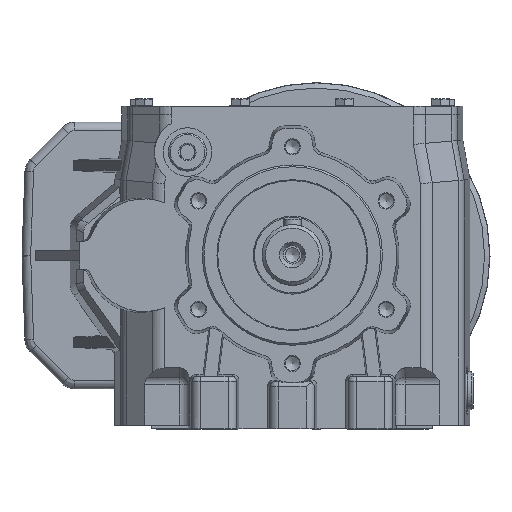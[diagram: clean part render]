
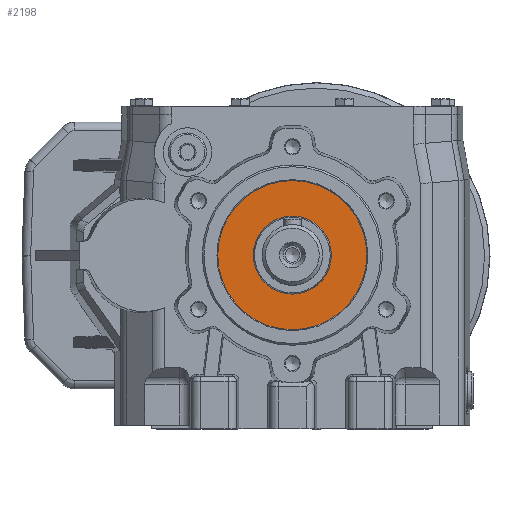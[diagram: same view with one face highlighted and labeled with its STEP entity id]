
A CAD part, top view. The second image highlights one B-rep face of the part: STEP entity #2198.
In plain terms, the highlighted planar face has unit normal (0, 0, 1).
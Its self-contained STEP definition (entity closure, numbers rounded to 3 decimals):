
#2198 = ADVANCED_FACE( '', ( #5306, #5307 ), #5308, .F. );
#5306 = FACE_BOUND( '', #12082, .T. );
#5307 = FACE_OUTER_BOUND( '', #12083, .T. );
#5308 = PLANE( '', #12084 );
#12082 = EDGE_LOOP( '', ( #22625 ) );
#12083 = EDGE_LOOP( '', ( #22626 ) );
#12084 = AXIS2_PLACEMENT_3D( '', #22627, #22628, #22629 );
#22625 = ORIENTED_EDGE( '', *, *, #30039, .F. );
#22626 = ORIENTED_EDGE( '', *, *, #28758, .T. );
#22627 = CARTESIAN_POINT( '', ( 0., 42.5, 12.5 ) );
#22628 = DIRECTION( '', ( 0., 0., -1. ) );
#22629 = DIRECTION( '', ( 1., 0., 0. ) );
#28758 = EDGE_CURVE( '', #32694, #32694, #32695, .F. );
#30039 = EDGE_CURVE( '', #34839, #34839, #34840, .T. );
#32694 = VERTEX_POINT( '', #38363 );
#32695 = CIRCLE( '', #38364, 43. );
#34839 = VERTEX_POINT( '', #42140 );
#34840 = CIRCLE( '', #42141, 22.5 );
#38363 = CARTESIAN_POINT( '', ( 0., 43., 12.5 ) );
#38364 = AXIS2_PLACEMENT_3D( '', #48733, #48734, #48735 );
#42140 = CARTESIAN_POINT( '', ( 22.5, 0., 12.5 ) );
#42141 = AXIS2_PLACEMENT_3D( '', #50499, #50500, #50501 );
#48733 = CARTESIAN_POINT( '', ( 0., 0., 12.5 ) );
#48734 = DIRECTION( '', ( 0., 0., -1. ) );
#48735 = DIRECTION( '', ( 0., 1., 0. ) );
#50499 = CARTESIAN_POINT( '', ( 0., 0., 12.5 ) );
#50500 = DIRECTION( '', ( 0., 0., 1. ) );
#50501 = DIRECTION( '', ( 1., 0., 0. ) );
